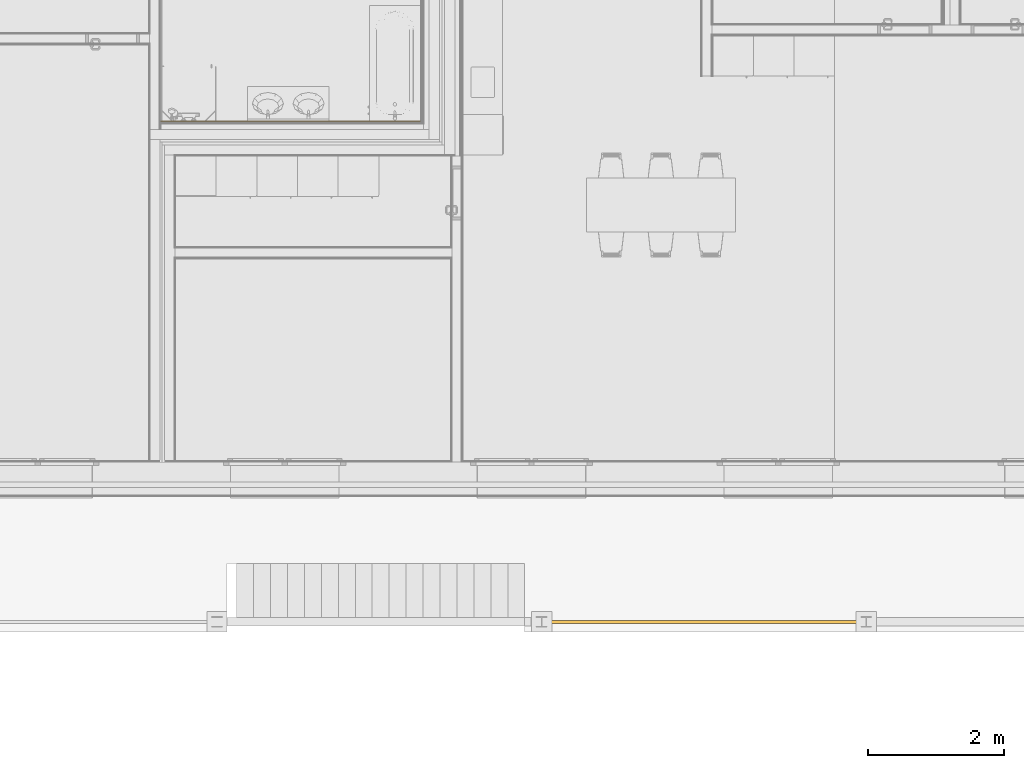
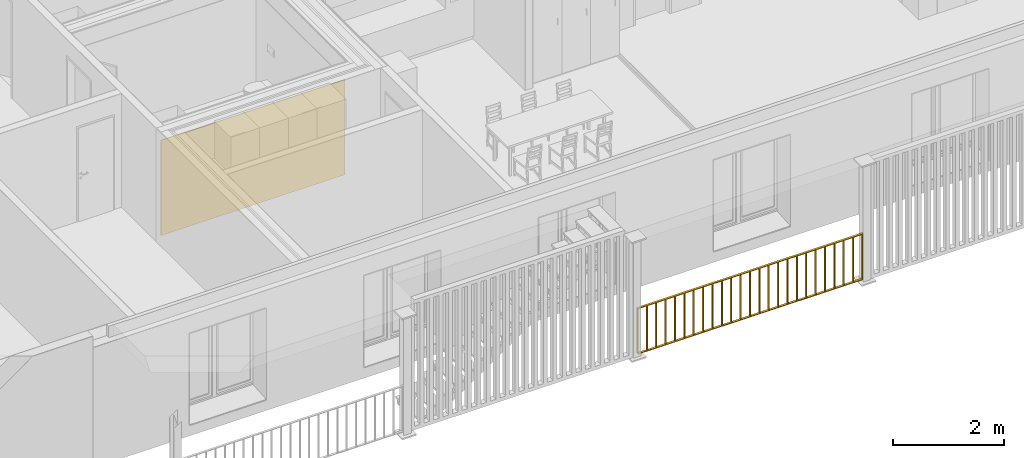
# One storey, part 22 of 34: 1 covering, 1 railing.
"""IFC4 building model written with IfcOpenShell, lengths in millimetres."""

from ifc_helpers import new_model, entity, si_unit, converted_unit, derived_unit, direction, frame, origin_with_axes, place, context, subcontext, project, spatial, polygons, material, constituent, constituent_set, type_object, element, save


model = new_model("IFC4")

# Units and contexts
model_context = context("Model", 3, precision=0.01, world=origin_with_axes(), true_north=direction((0.0, 1.0)))
body_context = subcontext(model_context, "Body", "Model", "MODEL_VIEW")
ifc_project = project(units=[si_unit("LENGTHUNIT", "METRE", prefix="MILLI"), si_unit("AREAUNIT", "SQUARE_METRE"), si_unit("VOLUMEUNIT", "CUBIC_METRE"), converted_unit("PLANEANGLEUNIT", "DEGREE", entity("IfcPlaneAngleMeasure", 0.0174532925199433), si_unit("PLANEANGLEUNIT", "RADIAN"), dimensions=[0, 0, 0, 0, 0, 0, 0]), converted_unit("TIMEUNIT", "Year", entity("IfcTimeMeasure", 31557600.0), si_unit("TIMEUNIT", "SECOND"), dimensions=[0, 0, 1, 0, 0, 0, 0]), si_unit("MASSUNIT", "GRAM", prefix="KILO"), si_unit("THERMODYNAMICTEMPERATUREUNIT", "DEGREE_CELSIUS"), si_unit("LUMINOUSINTENSITYUNIT", "LUMEN"), si_unit("ENERGYUNIT", "JOULE", prefix="MEGA"), derived_unit("THERMALCONDUCTANCEUNIT", [(si_unit("POWERUNIT", "WATT"), 1), (si_unit("LENGTHUNIT", "METRE"), -1), (si_unit("THERMODYNAMICTEMPERATUREUNIT", "KELVIN"), -1)]), derived_unit("SPECIFICHEATCAPACITYUNIT", [(si_unit("ENERGYUNIT", "JOULE"), 1), (si_unit("MASSUNIT", "GRAM", prefix="KILO"), -1), (si_unit("THERMODYNAMICTEMPERATUREUNIT", "KELVIN"), -1)]), derived_unit("MASSDENSITYUNIT", [(si_unit("MASSUNIT", "GRAM", prefix="KILO"), 1), (si_unit("VOLUMEUNIT", "CUBIC_METRE"), -1)])], contexts=[model_context])

# Site, building, storey
site_placement = place(None, origin_with_axes())
site = spatial("IfcSite", under=ifc_project, at=site_placement, Name="Gelände", CompositionType="ELEMENT")
building_placement = place(site_placement, origin_with_axes())
building = spatial("IfcBuilding", under=site, at=building_placement, Name="Gebäude", CompositionType="ELEMENT")
storey_placement = place(building_placement, frame((0.0, 0.0, 5799.999999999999), z_axis=(0.0, 0.0, 1.0), x_axis=(1.0, 0.0, 0.0)))
storey = spatial("IfcBuildingStorey", under=building, at=storey_placement, Name="2.OG", CompositionType="ELEMENT", Elevation=5800.0)

# Railing
ifc_material_1 = material(Name="Stahl")
ifc_constituent_1 = constituent(ifc_material_1, Name="Stahl 1")
ifc_constituent_2 = constituent(ifc_material_1, Name="Stahl 2")
ifc_constituent_3 = constituent(ifc_material_1, Name="Stahl 3")
ifc_constituent_4 = constituent(ifc_material_1, Name="Stahl 4")
ifc_constituent_5 = constituent(ifc_material_1, Name="Stahl 5")
ifc_constituent_6 = constituent(ifc_material_1, Name="Stahl 6")
ifc_constituent_7 = constituent(ifc_material_1, Name="Stahl 7")
ifc_constituent_8 = constituent(ifc_material_1, Name="Stahl 8")
ifc_constituent_9 = constituent(ifc_material_1, Name="Stahl 9")
ifc_constituent_10 = constituent(ifc_material_1, Name="Stahl 10")
ifc_constituent_11 = constituent(ifc_material_1, Name="Stahl 11")
ifc_constituent_12 = constituent(ifc_material_1, Name="Stahl 12")
ifc_constituent_13 = constituent(ifc_material_1, Name="Stahl 13")
ifc_constituent_14 = constituent(ifc_material_1, Name="Stahl 14")
ifc_constituent_15 = constituent(ifc_material_1, Name="Stahl 15")
ifc_constituent_16 = constituent(ifc_material_1, Name="Stahl 16")
ifc_constituent_17 = constituent(ifc_material_1, Name="Stahl 17")
ifc_constituent_18 = constituent(ifc_material_1, Name="Stahl 18")
ifc_constituent_19 = constituent(ifc_material_1, Name="Stahl 19")
ifc_constituent_20 = constituent(ifc_material_1, Name="Stahl 20")
ifc_constituent_21 = constituent(ifc_material_1, Name="Stahl 21")
ifc_constituent_22 = constituent(ifc_material_1, Name="Stahl 22")
ifc_constituent_23 = constituent(ifc_material_1, Name="Stahl 23")
ifc_constituent_24 = constituent(ifc_material_1, Name="Stahl 24")
ifc_constituent_25 = constituent(ifc_material_1, Name="Stahl 25")
ifc_constituent_26 = constituent(ifc_material_1, Name="Stahl 26")
ifc_constituent_27 = constituent(ifc_material_1, Name="Stahl 27")
ifc_constituent_28 = constituent(ifc_material_1, Name="Stahl 28")
ifc_constituent_29 = constituent(ifc_material_1, Name="Stahl 29")
ifc_constituent_set_1 = constituent_set(constituents=[ifc_constituent_1, ifc_constituent_2, ifc_constituent_3, ifc_constituent_4, ifc_constituent_5, ifc_constituent_6, ifc_constituent_7, ifc_constituent_8, ifc_constituent_9, ifc_constituent_10, ifc_constituent_11, ifc_constituent_12, ifc_constituent_13, ifc_constituent_14, ifc_constituent_15, ifc_constituent_16, ifc_constituent_17, ifc_constituent_18, ifc_constituent_19, ifc_constituent_20, ifc_constituent_21, ifc_constituent_22, ifc_constituent_23, ifc_constituent_24, ifc_constituent_25, ifc_constituent_26, ifc_constituent_27, ifc_constituent_28, ifc_constituent_29])
railing_type = type_object("IfcRailingType", Name="Geländerart", PredefinedType="NOTDEFINED")
railing_placement = place(storey_placement, frame((5767.336356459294, 21097.59674077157, 49.99994801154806), z_axis=(0.0, 0.0, 1.0), x_axis=(1.0, 0.0, 0.0)))
element("IfcRailing", 1, at=railing_placement, inside=storey, type_object=railing_type, material=ifc_constituent_set_1, Name="Geländer-003", PredefinedType="NOTDEFINED", context=body_context, shape_type="Tessellation", body=[
    polygons([(196.5594620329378, -19.99999999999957, 0.0), (196.5594620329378, 19.99999999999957, 0.0), (196.5594620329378, 19.99999999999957, 1000.0), (196.5594620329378, -19.99999999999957, 1000.0), (181.5594620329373, -19.99999999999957, 0.0), (181.5594620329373, 19.99999999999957, 0.0), (181.5594620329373, 19.99999999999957, 1000.0), (181.5594620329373, -19.99999999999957, 1000.0)], [[[1, 2, 3, 4]], [[1, 5, 6, 2]], [[2, 6, 7, 3]], [[4, 3, 7, 8]], [[5, 1, 4, 8]], [[6, 5, 8, 7]]], closed=True),
    polygons([(189.0594620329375, 22.50000000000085, 1000.0), (189.0594620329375, 22.50000000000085, 985.0000000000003), (181.5594620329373, 22.50000000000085, 985.0000000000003), (181.5594620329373, 22.50000000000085, 1000.0), (189.0594620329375, -22.50000000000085, 1000.0), (189.0594620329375, -22.50000000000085, 985.0000000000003), (181.5594620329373, -22.50000000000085, 985.0000000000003), (181.5594620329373, -22.50000000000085, 1000.0)], [[[1, 2, 3, 4]], [[1, 5, 6, 2]], [[2, 6, 7, 3]], [[4, 3, 7, 8]], [[5, 1, 4, 8]], [[6, 5, 8, 7]]], closed=True),
    polygons([(4887.359462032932, -19.99999999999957, 0.0), (4887.359462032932, 19.99999999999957, 0.0), (4887.359462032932, 19.99999999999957, 1000.0), (4887.359462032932, -19.99999999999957, 1000.0), (4872.359462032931, -19.99999999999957, 0.0), (4872.359462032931, 19.99999999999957, 0.0), (4872.359462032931, 19.99999999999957, 1000.0), (4872.359462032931, -19.99999999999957, 1000.0)], [[[1, 2, 3, 4]], [[1, 5, 6, 2]], [[2, 6, 7, 3]], [[4, 3, 7, 8]], [[5, 1, 4, 8]], [[6, 5, 8, 7]]], closed=True),
    polygons([(4879.859462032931, -22.50000000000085, 1000.0), (4879.859462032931, -22.50000000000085, 985.0000000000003), (4887.359462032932, -22.50000000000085, 985.0000000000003), (4887.359462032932, -22.50000000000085, 1000.0), (4879.859462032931, 22.50000000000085, 1000.0), (4879.859462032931, 22.50000000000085, 985.0000000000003), (4887.359462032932, 22.50000000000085, 985.0000000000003), (4887.359462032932, 22.50000000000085, 1000.0)], [[[1, 2, 3, 4]], [[1, 5, 6, 2]], [[2, 6, 7, 3]], [[4, 3, 7, 8]], [[5, 1, 4, 8]], [[6, 5, 8, 7]]], closed=True),
    polygons([(189.0594620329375, -22.50000000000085, 0.9999999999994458), (189.0594620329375, -22.50000000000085, -14.00000000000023), (4879.859462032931, -22.50000000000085, -14.00000000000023), (4879.859462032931, -22.50000000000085, 0.9999999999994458), (189.0594620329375, 22.50000000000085, 0.9999999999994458), (189.0594620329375, 22.50000000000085, -14.00000000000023), (4879.859462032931, 22.50000000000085, -14.00000000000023), (4879.859462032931, 22.50000000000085, 0.9999999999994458)], [[[1, 2, 3, 4]], [[1, 5, 6, 2]], [[2, 6, 7, 3]], [[4, 3, 7, 8]], [[5, 1, 4, 8]], [[6, 5, 8, 7]]], closed=True),
    polygons([(189.0594620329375, -22.50000000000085, 1000.0), (189.0594620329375, -22.50000000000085, 985.0000000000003), (4879.859462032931, -22.50000000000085, 985.0000000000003), (4879.859462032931, -22.50000000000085, 1000.0), (189.0594620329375, 22.50000000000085, 1000.0), (189.0594620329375, 22.50000000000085, 985.0000000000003), (4879.859462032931, 22.50000000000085, 985.0000000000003), (4879.859462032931, 22.50000000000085, 1000.0)], [[[1, 2, 3, 4]], [[1, 5, 6, 2]], [[2, 6, 7, 3]], [[4, 3, 7, 8]], [[5, 1, 4, 8]], [[6, 5, 8, 7]]], closed=True),
    polygons([(392.009462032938, -22.50000000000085, 0.0), (392.009462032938, 22.50000000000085, 0.0), (392.009462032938, 22.50000000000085, 985.2293691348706), (392.009462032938, -22.50000000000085, 985.2293691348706), (377.0094620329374, -22.50000000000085, 0.0), (377.0094620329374, 22.50000000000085, 0.0), (377.0094620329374, 22.50000000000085, 985.2293691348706), (377.0094620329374, -22.50000000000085, 985.2293691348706)], [[[1, 2, 3, 4]], [[1, 5, 6, 2]], [[2, 6, 7, 3]], [[4, 3, 7, 8]], [[5, 1, 4, 8]], [[6, 5, 8, 7]]], closed=True),
    polygons([(587.4594620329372, -22.50000000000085, 0.0), (587.4594620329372, 22.50000000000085, 0.0), (587.4594620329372, 22.50000000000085, 985.2293691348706), (587.4594620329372, -22.50000000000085, 985.2293691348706), (572.4594620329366, -22.50000000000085, 0.0), (572.4594620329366, 22.50000000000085, 0.0), (572.4594620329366, 22.50000000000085, 985.2293691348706), (572.4594620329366, -22.50000000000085, 985.2293691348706)], [[[1, 2, 3, 4]], [[1, 5, 6, 2]], [[2, 6, 7, 3]], [[4, 3, 7, 8]], [[5, 1, 4, 8]], [[6, 5, 8, 7]]], closed=True),
    polygons([(782.9094620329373, -22.50000000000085, 0.0), (782.9094620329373, 22.50000000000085, 0.0), (782.9094620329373, 22.50000000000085, 985.2293691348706), (782.9094620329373, -22.50000000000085, 985.2293691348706), (767.9094620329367, -22.50000000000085, 0.0), (767.9094620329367, 22.50000000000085, 0.0), (767.9094620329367, 22.50000000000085, 985.2293691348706), (767.9094620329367, -22.50000000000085, 985.2293691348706)], [[[1, 2, 3, 4]], [[1, 5, 6, 2]], [[2, 6, 7, 3]], [[4, 3, 7, 8]], [[5, 1, 4, 8]], [[6, 5, 8, 7]]], closed=True),
    polygons([(978.3594620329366, -22.50000000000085, 0.0), (978.3594620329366, 22.50000000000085, 0.0), (978.3594620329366, 22.50000000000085, 985.2293691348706), (978.3594620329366, -22.50000000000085, 985.2293691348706), (963.359462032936, -22.50000000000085, 0.0), (963.359462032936, 22.50000000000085, 0.0), (963.359462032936, 22.50000000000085, 985.2293691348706), (963.359462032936, -22.50000000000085, 985.2293691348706)], [[[1, 2, 3, 4]], [[1, 5, 6, 2]], [[2, 6, 7, 3]], [[4, 3, 7, 8]], [[5, 1, 4, 8]], [[6, 5, 8, 7]]], closed=True),
    polygons([(1173.809462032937, -22.50000000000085, 0.0), (1173.809462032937, 22.50000000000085, 0.0), (1173.809462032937, 22.50000000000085, 985.2293691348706), (1173.809462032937, -22.50000000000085, 985.2293691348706), (1158.809462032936, -22.50000000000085, 0.0), (1158.809462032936, 22.50000000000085, 0.0), (1158.809462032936, 22.50000000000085, 985.2293691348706), (1158.809462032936, -22.50000000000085, 985.2293691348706)], [[[1, 2, 3, 4]], [[1, 5, 6, 2]], [[2, 6, 7, 3]], [[4, 3, 7, 8]], [[5, 1, 4, 8]], [[6, 5, 8, 7]]], closed=True),
    polygons([(1369.259462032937, -22.50000000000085, 0.0), (1369.259462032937, 22.50000000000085, 0.0), (1369.259462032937, 22.50000000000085, 985.2293691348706), (1369.259462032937, -22.50000000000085, 985.2293691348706), (1354.259462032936, -22.50000000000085, 0.0), (1354.259462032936, 22.50000000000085, 0.0), (1354.259462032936, 22.50000000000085, 985.2293691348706), (1354.259462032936, -22.50000000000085, 985.2293691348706)], [[[1, 2, 3, 4]], [[1, 5, 6, 2]], [[2, 6, 7, 3]], [[4, 3, 7, 8]], [[5, 1, 4, 8]], [[6, 5, 8, 7]]], closed=True),
    polygons([(1564.709462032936, -22.50000000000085, 0.0), (1564.709462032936, 22.50000000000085, 0.0), (1564.709462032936, 22.50000000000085, 985.2293691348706), (1564.709462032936, -22.50000000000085, 985.2293691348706), (1549.709462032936, -22.50000000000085, 0.0), (1549.709462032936, 22.50000000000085, 0.0), (1549.709462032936, 22.50000000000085, 985.2293691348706), (1549.709462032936, -22.50000000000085, 985.2293691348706)], [[[1, 2, 3, 4]], [[1, 5, 6, 2]], [[2, 6, 7, 3]], [[4, 3, 7, 8]], [[5, 1, 4, 8]], [[6, 5, 8, 7]]], closed=True),
    polygons([(1760.159462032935, -22.50000000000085, 0.0), (1760.159462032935, 22.50000000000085, 0.0), (1760.159462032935, 22.50000000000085, 985.2293691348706), (1760.159462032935, -22.50000000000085, 985.2293691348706), (1745.159462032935, -22.50000000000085, 0.0), (1745.159462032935, 22.50000000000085, 0.0), (1745.159462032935, 22.50000000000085, 985.2293691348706), (1745.159462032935, -22.50000000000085, 985.2293691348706)], [[[1, 2, 3, 4]], [[1, 5, 6, 2]], [[2, 6, 7, 3]], [[4, 3, 7, 8]], [[5, 1, 4, 8]], [[6, 5, 8, 7]]], closed=True),
    polygons([(1955.609462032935, -22.50000000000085, 0.0), (1955.609462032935, 22.50000000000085, 0.0), (1955.609462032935, 22.50000000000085, 985.2293691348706), (1955.609462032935, -22.50000000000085, 985.2293691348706), (1940.609462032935, -22.50000000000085, 0.0), (1940.609462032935, 22.50000000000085, 0.0), (1940.609462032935, 22.50000000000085, 985.2293691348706), (1940.609462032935, -22.50000000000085, 985.2293691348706)], [[[1, 2, 3, 4]], [[1, 5, 6, 2]], [[2, 6, 7, 3]], [[4, 3, 7, 8]], [[5, 1, 4, 8]], [[6, 5, 8, 7]]], closed=True),
    polygons([(2151.059462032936, -22.50000000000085, 0.0), (2151.059462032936, 22.50000000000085, 0.0), (2151.059462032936, 22.50000000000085, 985.2293691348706), (2151.059462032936, -22.50000000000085, 985.2293691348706), (2136.059462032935, -22.50000000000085, 0.0), (2136.059462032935, 22.50000000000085, 0.0), (2136.059462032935, 22.50000000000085, 985.2293691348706), (2136.059462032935, -22.50000000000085, 985.2293691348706)], [[[1, 2, 3, 4]], [[1, 5, 6, 2]], [[2, 6, 7, 3]], [[4, 3, 7, 8]], [[5, 1, 4, 8]], [[6, 5, 8, 7]]], closed=True),
    polygons([(2346.509462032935, -22.50000000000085, 0.0), (2346.509462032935, 22.50000000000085, 0.0), (2346.509462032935, 22.50000000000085, 985.2293691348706), (2346.509462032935, -22.50000000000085, 985.2293691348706), (2331.509462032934, -22.50000000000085, 0.0), (2331.509462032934, 22.50000000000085, 0.0), (2331.509462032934, 22.50000000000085, 985.2293691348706), (2331.509462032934, -22.50000000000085, 985.2293691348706)], [[[1, 2, 3, 4]], [[1, 5, 6, 2]], [[2, 6, 7, 3]], [[4, 3, 7, 8]], [[5, 1, 4, 8]], [[6, 5, 8, 7]]], closed=True),
    polygons([(2541.959462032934, -22.50000000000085, 0.0), (2541.959462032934, 22.50000000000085, 0.0), (2541.959462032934, 22.50000000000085, 985.2293691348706), (2541.959462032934, -22.50000000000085, 985.2293691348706), (2526.959462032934, -22.50000000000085, 0.0), (2526.959462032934, 22.50000000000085, 0.0), (2526.959462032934, 22.50000000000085, 985.2293691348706), (2526.959462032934, -22.50000000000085, 985.2293691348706)], [[[1, 2, 3, 4]], [[1, 5, 6, 2]], [[2, 6, 7, 3]], [[4, 3, 7, 8]], [[5, 1, 4, 8]], [[6, 5, 8, 7]]], closed=True),
    polygons([(2737.409462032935, -22.50000000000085, 0.0), (2737.409462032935, 22.50000000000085, 0.0), (2737.409462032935, 22.50000000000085, 985.2293691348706), (2737.409462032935, -22.50000000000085, 985.2293691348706), (2722.409462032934, -22.50000000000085, 0.0), (2722.409462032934, 22.50000000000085, 0.0), (2722.409462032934, 22.50000000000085, 985.2293691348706), (2722.409462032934, -22.50000000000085, 985.2293691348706)], [[[1, 2, 3, 4]], [[1, 5, 6, 2]], [[2, 6, 7, 3]], [[4, 3, 7, 8]], [[5, 1, 4, 8]], [[6, 5, 8, 7]]], closed=True),
    polygons([(2932.859462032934, -22.50000000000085, 0.0), (2932.859462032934, 22.50000000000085, 0.0), (2932.859462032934, 22.50000000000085, 985.2293691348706), (2932.859462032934, -22.50000000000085, 985.2293691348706), (2917.859462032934, -22.50000000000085, 0.0), (2917.859462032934, 22.50000000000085, 0.0), (2917.859462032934, 22.50000000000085, 985.2293691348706), (2917.859462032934, -22.50000000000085, 985.2293691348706)], [[[1, 2, 3, 4]], [[1, 5, 6, 2]], [[2, 6, 7, 3]], [[4, 3, 7, 8]], [[5, 1, 4, 8]], [[6, 5, 8, 7]]], closed=True),
    polygons([(3128.309462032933, -22.50000000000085, 0.0), (3128.309462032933, 22.50000000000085, 0.0), (3128.309462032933, 22.50000000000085, 985.2293691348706), (3128.309462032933, -22.50000000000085, 985.2293691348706), (3113.309462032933, -22.50000000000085, 0.0), (3113.309462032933, 22.50000000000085, 0.0), (3113.309462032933, 22.50000000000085, 985.2293691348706), (3113.309462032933, -22.50000000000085, 985.2293691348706)], [[[1, 2, 3, 4]], [[1, 5, 6, 2]], [[2, 6, 7, 3]], [[4, 3, 7, 8]], [[5, 1, 4, 8]], [[6, 5, 8, 7]]], closed=True),
    polygons([(3323.759462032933, -22.50000000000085, 0.0), (3323.759462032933, 22.50000000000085, 0.0), (3323.759462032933, 22.50000000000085, 985.2293691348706), (3323.759462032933, -22.50000000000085, 985.2293691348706), (3308.759462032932, -22.50000000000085, 0.0), (3308.759462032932, 22.50000000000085, 0.0), (3308.759462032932, 22.50000000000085, 985.2293691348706), (3308.759462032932, -22.50000000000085, 985.2293691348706)], [[[1, 2, 3, 4]], [[1, 5, 6, 2]], [[2, 6, 7, 3]], [[4, 3, 7, 8]], [[5, 1, 4, 8]], [[6, 5, 8, 7]]], closed=True),
    polygons([(3519.209462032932, -22.50000000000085, 0.0), (3519.209462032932, 22.50000000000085, 0.0), (3519.209462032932, 22.50000000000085, 985.2293691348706), (3519.209462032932, -22.50000000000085, 985.2293691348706), (3504.209462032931, -22.50000000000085, 0.0), (3504.209462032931, 22.50000000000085, 0.0), (3504.209462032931, 22.50000000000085, 985.2293691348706), (3504.209462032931, -22.50000000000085, 985.2293691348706)], [[[1, 2, 3, 4]], [[1, 5, 6, 2]], [[2, 6, 7, 3]], [[4, 3, 7, 8]], [[5, 1, 4, 8]], [[6, 5, 8, 7]]], closed=True),
    polygons([(3714.659462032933, -22.50000000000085, 0.0), (3714.659462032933, 22.50000000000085, 0.0), (3714.659462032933, 22.50000000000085, 985.2293691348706), (3714.659462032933, -22.50000000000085, 985.2293691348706), (3699.659462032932, -22.50000000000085, 0.0), (3699.659462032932, 22.50000000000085, 0.0), (3699.659462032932, 22.50000000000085, 985.2293691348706), (3699.659462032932, -22.50000000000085, 985.2293691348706)], [[[1, 2, 3, 4]], [[1, 5, 6, 2]], [[2, 6, 7, 3]], [[4, 3, 7, 8]], [[5, 1, 4, 8]], [[6, 5, 8, 7]]], closed=True),
    polygons([(3910.109462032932, -22.50000000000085, 0.0), (3910.109462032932, 22.50000000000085, 0.0), (3910.109462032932, 22.50000000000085, 985.2293691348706), (3910.109462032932, -22.50000000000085, 985.2293691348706), (3895.109462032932, -22.50000000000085, 0.0), (3895.109462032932, 22.50000000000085, 0.0), (3895.109462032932, 22.50000000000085, 985.2293691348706), (3895.109462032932, -22.50000000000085, 985.2293691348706)], [[[1, 2, 3, 4]], [[1, 5, 6, 2]], [[2, 6, 7, 3]], [[4, 3, 7, 8]], [[5, 1, 4, 8]], [[6, 5, 8, 7]]], closed=True),
    polygons([(4105.559462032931, -22.50000000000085, 0.0), (4105.559462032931, 22.50000000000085, 0.0), (4105.559462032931, 22.50000000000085, 985.2293691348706), (4105.559462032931, -22.50000000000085, 985.2293691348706), (4090.559462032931, -22.50000000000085, 0.0), (4090.559462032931, 22.50000000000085, 0.0), (4090.559462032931, 22.50000000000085, 985.2293691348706), (4090.559462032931, -22.50000000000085, 985.2293691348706)], [[[1, 2, 3, 4]], [[1, 5, 6, 2]], [[2, 6, 7, 3]], [[4, 3, 7, 8]], [[5, 1, 4, 8]], [[6, 5, 8, 7]]], closed=True),
    polygons([(4301.009462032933, -22.50000000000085, 0.0), (4301.009462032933, 22.50000000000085, 0.0), (4301.009462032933, 22.50000000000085, 985.2293691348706), (4301.009462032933, -22.50000000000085, 985.2293691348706), (4286.009462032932, -22.50000000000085, 0.0), (4286.009462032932, 22.50000000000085, 0.0), (4286.009462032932, 22.50000000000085, 985.2293691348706), (4286.009462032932, -22.50000000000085, 985.2293691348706)], [[[1, 2, 3, 4]], [[1, 5, 6, 2]], [[2, 6, 7, 3]], [[4, 3, 7, 8]], [[5, 1, 4, 8]], [[6, 5, 8, 7]]], closed=True),
    polygons([(4496.459462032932, -22.50000000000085, 0.0), (4496.459462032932, 22.50000000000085, 0.0), (4496.459462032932, 22.50000000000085, 985.2293691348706), (4496.459462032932, -22.50000000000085, 985.2293691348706), (4481.459462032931, -22.50000000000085, 0.0), (4481.459462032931, 22.50000000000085, 0.0), (4481.459462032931, 22.50000000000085, 985.2293691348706), (4481.459462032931, -22.50000000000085, 985.2293691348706)], [[[1, 2, 3, 4]], [[1, 5, 6, 2]], [[2, 6, 7, 3]], [[4, 3, 7, 8]], [[5, 1, 4, 8]], [[6, 5, 8, 7]]], closed=True),
    polygons([(4691.909462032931, -22.50000000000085, 0.0), (4691.909462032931, 22.50000000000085, 0.0), (4691.909462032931, 22.50000000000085, 985.2293691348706), (4691.909462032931, -22.50000000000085, 985.2293691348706), (4676.909462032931, -22.50000000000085, 0.0), (4676.909462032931, 22.50000000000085, 0.0), (4676.909462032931, 22.50000000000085, 985.2293691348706), (4676.909462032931, -22.50000000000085, 985.2293691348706)], [[[1, 2, 3, 4]], [[1, 5, 6, 2]], [[2, 6, 7, 3]], [[4, 3, 7, 8]], [[5, 1, 4, 8]], [[6, 5, 8, 7]]], closed=True),
])

# Covering
ifc_material_2 = material(Name="Naturstein")
ifc_constituent_30 = constituent(ifc_material_2, Name="Naturstein")
ifc_constituent_set_2 = constituent_set(constituents=[ifc_constituent_30], Name="Wandbekleidung Typ 01")
covering_type = type_object("IfcCoveringType", Name="Wandbekleidung Typ 01 15", PredefinedType="NOTDEFINED")
covering_placement = place(storey_placement, frame((4115.995818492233, 28494.37338563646, 150.0000000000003), z_axis=(0.0, 0.0, 1.0), x_axis=(-1.0, 0.0, 0.0)))
element("IfcCovering", 2, at=covering_placement, inside=storey, type_object=covering_type, material=ifc_constituent_set_2, Name="Wand-014", PredefinedType="NOTDEFINED", context=body_context, shape_type="Tessellation", body=[
    polygons([(3832.999999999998, 15.00000000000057, 0.0), (3832.999999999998, 0.0, 0.0), (0.0, 0.0, 0.0), (0.0, 15.00000000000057, 0.0), (3832.999999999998, 15.00000000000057, 2100.000000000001), (3832.999999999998, 0.0, 2100.000000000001), (0.0, 0.0, 2100.000000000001), (0.0, 15.00000000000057, 2100.000000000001)], [[[1, 2, 3, 4]], [[2, 1, 5, 6]], [[2, 6, 7, 3]], [[8, 4, 3, 7]], [[5, 1, 4, 8]], [[6, 5, 8, 7]]], closed=True),
])

save(model, "model.ifc")
